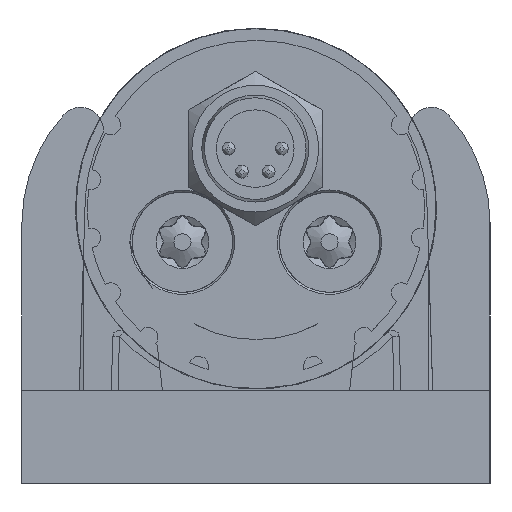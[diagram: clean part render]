
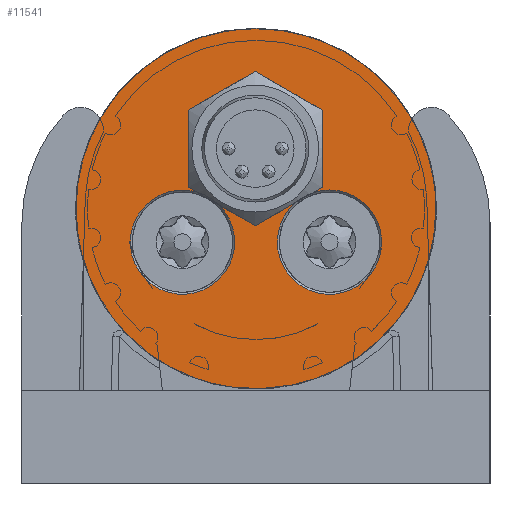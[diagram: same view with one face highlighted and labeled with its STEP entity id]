
A CAD part, front view. The second image highlights one B-rep face of the part: STEP entity #11541.
In plain terms, the highlighted planar face has unit normal (0, -1, 0).
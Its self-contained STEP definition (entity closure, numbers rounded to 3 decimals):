
#166=FACE_BOUND('',#1679,.T.);
#473=PLANE('',#12741);
#1034=FACE_OUTER_BOUND('',#1678,.T.);
#1678=EDGE_LOOP('',(#9838,#9839,#9840));
#1679=EDGE_LOOP('',(#9841,#9842,#9843,#9844,#9845,#9846,#9847,#9848,#9849,
#9850,#9851,#9852));
#2337=LINE('',#23920,#2943);
#2338=LINE('',#23922,#2944);
#2339=LINE('',#23923,#2945);
#2340=LINE('',#23925,#2946);
#2341=LINE('',#23927,#2947);
#2342=LINE('',#23929,#2948);
#2343=LINE('',#23931,#2949);
#2344=LINE('',#23932,#2950);
#2943=VECTOR('',#15618,10.);
#2944=VECTOR('',#15619,10.);
#2945=VECTOR('',#15620,10.);
#2946=VECTOR('',#15621,10.);
#2947=VECTOR('',#15622,10.);
#2948=VECTOR('',#15623,10.);
#2949=VECTOR('',#15624,10.);
#2950=VECTOR('',#15625,10.);
#3528=CIRCLE('',#12705,3.9);
#3530=CIRCLE('',#12707,3.9);
#3531=CIRCLE('',#12709,3.9);
#3533=CIRCLE('',#12711,3.9);
#3991=B_SPLINE_CURVE_WITH_KNOTS('',3,(#23542,#23543,#23544,#23545,#23546,
#23547,#23548,#23549,#23550,#23551),.UNSPECIFIED.,.F.,.F.,(4,2,2,2,4),(0.,
0.568,1.154,1.74,2.308),
 .UNSPECIFIED.);
#3992=B_SPLINE_CURVE_WITH_KNOTS('',3,(#23580,#23581,#23582,#23583,#23584,
#23585,#23586,#23587,#23588,#23589),.UNSPECIFIED.,.F.,.F.,(4,2,2,2,4),(0.,
0.568,1.154,1.74,2.308),
 .UNSPECIFIED.);
#3993=B_SPLINE_CURVE_WITH_KNOTS('',3,(#23640,#23641,#23642,#23643,#23644,
#23645,#23646,#23647,#23648,#23649,#23650,#23651,#23652,#23653,#23654,#23655,
#23656,#23657),.UNSPECIFIED.,.F.,.F.,(4,2,2,2,2,2,2,2,4),(0.,0.619,
1.376,2.208,2.895,3.582,4.413,
5.171,5.789),.UNSPECIFIED.);
#5042=VERTEX_POINT('',#23540);
#5043=VERTEX_POINT('',#23541);
#5044=VERTEX_POINT('',#23578);
#5045=VERTEX_POINT('',#23659);
#5046=VERTEX_POINT('',#23660);
#5047=VERTEX_POINT('',#23662);
#5048=VERTEX_POINT('',#23667);
#5049=VERTEX_POINT('',#23668);
#5050=VERTEX_POINT('',#23670);
#5053=VERTEX_POINT('',#23919);
#5054=VERTEX_POINT('',#23921);
#5055=VERTEX_POINT('',#23924);
#5056=VERTEX_POINT('',#23926);
#5057=VERTEX_POINT('',#23928);
#5058=VERTEX_POINT('',#23930);
#6649=EDGE_CURVE('',#5042,#5043,#3991,.T.);
#6653=EDGE_CURVE('',#5044,#5042,#3992,.T.);
#6654=EDGE_CURVE('',#5043,#5044,#3993,.T.);
#6655=EDGE_CURVE('',#5045,#5046,#3528,.T.);
#6657=EDGE_CURVE('',#5046,#5047,#3530,.T.);
#6659=EDGE_CURVE('',#5048,#5049,#3531,.T.);
#6661=EDGE_CURVE('',#5049,#5050,#3533,.T.);
#6690=EDGE_CURVE('',#5053,#5045,#2337,.T.);
#6691=EDGE_CURVE('',#5047,#5054,#2338,.T.);
#6692=EDGE_CURVE('',#5054,#5048,#2339,.T.);
#6693=EDGE_CURVE('',#5050,#5055,#2340,.T.);
#6694=EDGE_CURVE('',#5055,#5056,#2341,.T.);
#6695=EDGE_CURVE('',#5056,#5057,#2342,.T.);
#6696=EDGE_CURVE('',#5057,#5058,#2343,.T.);
#6697=EDGE_CURVE('',#5058,#5053,#2344,.T.);
#9838=ORIENTED_EDGE('',*,*,#6654,.F.);
#9839=ORIENTED_EDGE('',*,*,#6649,.F.);
#9840=ORIENTED_EDGE('',*,*,#6653,.F.);
#9841=ORIENTED_EDGE('',*,*,#6690,.T.);
#9842=ORIENTED_EDGE('',*,*,#6655,.T.);
#9843=ORIENTED_EDGE('',*,*,#6657,.T.);
#9844=ORIENTED_EDGE('',*,*,#6691,.T.);
#9845=ORIENTED_EDGE('',*,*,#6692,.T.);
#9846=ORIENTED_EDGE('',*,*,#6659,.T.);
#9847=ORIENTED_EDGE('',*,*,#6661,.T.);
#9848=ORIENTED_EDGE('',*,*,#6693,.T.);
#9849=ORIENTED_EDGE('',*,*,#6694,.T.);
#9850=ORIENTED_EDGE('',*,*,#6695,.T.);
#9851=ORIENTED_EDGE('',*,*,#6696,.T.);
#9852=ORIENTED_EDGE('',*,*,#6697,.T.);
#11541=ADVANCED_FACE('',(#1034,#166),#473,.T.);
#12705=AXIS2_PLACEMENT_3D('',#23661,#15539,#15540);
#12707=AXIS2_PLACEMENT_3D('',#23664,#15543,#15544);
#12709=AXIS2_PLACEMENT_3D('',#23669,#15548,#15549);
#12711=AXIS2_PLACEMENT_3D('',#23672,#15552,#15553);
#12741=AXIS2_PLACEMENT_3D('',#23918,#15616,#15617);
#15539=DIRECTION('center_axis',(0.,1.,0.));
#15540=DIRECTION('ref_axis',(1.,0.,0.));
#15543=DIRECTION('center_axis',(0.,1.,0.));
#15544=DIRECTION('ref_axis',(1.,0.,0.));
#15548=DIRECTION('center_axis',(0.,1.,0.));
#15549=DIRECTION('ref_axis',(1.,0.,0.));
#15552=DIRECTION('center_axis',(0.,1.,0.));
#15553=DIRECTION('ref_axis',(1.,0.,0.));
#15616=DIRECTION('center_axis',(0.,-1.,0.));
#15617=DIRECTION('ref_axis',(-1.,0.,0.));
#15618=DIRECTION('',(-0.866,0.,-0.5));
#15619=DIRECTION('',(-0.866,0.,-0.5));
#15620=DIRECTION('',(-0.866,0.,0.5));
#15621=DIRECTION('',(-0.866,0.,0.5));
#15622=DIRECTION('',(0.,0.,1.));
#15623=DIRECTION('',(0.866,0.,0.5));
#15624=DIRECTION('',(0.866,0.,-0.5));
#15625=DIRECTION('',(0.,0.,-1.));
#23540=CARTESIAN_POINT('',(-106.343,-28.458,18.021));
#23541=CARTESIAN_POINT('',(-92.887,-28.458,4.565));
#23542=CARTESIAN_POINT('Ctrl Pts',(-106.343,-28.458,
18.021));
#23543=CARTESIAN_POINT('Ctrl Pts',(-104.45,-28.458,
18.021));
#23544=CARTESIAN_POINT('Ctrl Pts',(-102.683,-28.458,
17.623));
#23545=CARTESIAN_POINT('Ctrl Pts',(-99.523,-28.458,
16.295));
#23546=CARTESIAN_POINT('Ctrl Pts',(-98.066,-28.458,
15.317));
#23547=CARTESIAN_POINT('Ctrl Pts',(-95.591,-28.458,
12.843));
#23548=CARTESIAN_POINT('Ctrl Pts',(-94.613,-28.458,
11.386));
#23549=CARTESIAN_POINT('Ctrl Pts',(-93.285,-28.458,8.225));
#23550=CARTESIAN_POINT('Ctrl Pts',(-92.887,-28.458,
6.458));
#23551=CARTESIAN_POINT('Ctrl Pts',(-92.887,-28.458,
4.565));
#23578=CARTESIAN_POINT('',(-119.799,-28.458,4.565));
#23580=CARTESIAN_POINT('Ctrl Pts',(-119.799,-28.458,
4.565));
#23581=CARTESIAN_POINT('Ctrl Pts',(-119.799,-28.458,
6.458));
#23582=CARTESIAN_POINT('Ctrl Pts',(-119.401,-28.458,
8.225));
#23583=CARTESIAN_POINT('Ctrl Pts',(-118.073,-28.458,
11.386));
#23584=CARTESIAN_POINT('Ctrl Pts',(-117.095,-28.458,
12.843));
#23585=CARTESIAN_POINT('Ctrl Pts',(-114.62,-28.458,
15.317));
#23586=CARTESIAN_POINT('Ctrl Pts',(-113.163,-28.458,
16.295));
#23587=CARTESIAN_POINT('Ctrl Pts',(-110.003,-28.458,
17.623));
#23588=CARTESIAN_POINT('Ctrl Pts',(-108.236,-28.458,
18.021));
#23589=CARTESIAN_POINT('Ctrl Pts',(-106.343,-28.458,
18.021));
#23640=CARTESIAN_POINT('Ctrl Pts',(-92.887,-28.458,
4.565));
#23641=CARTESIAN_POINT('Ctrl Pts',(-92.887,-28.458,
2.503));
#23642=CARTESIAN_POINT('Ctrl Pts',(-93.361,-28.458,
0.756));
#23643=CARTESIAN_POINT('Ctrl Pts',(-94.564,-28.458,
-2.171));
#23644=CARTESIAN_POINT('Ctrl Pts',(-95.532,-28.458,-3.634));
#23645=CARTESIAN_POINT('Ctrl Pts',(-98.101,-28.458,
-6.242));
#23646=CARTESIAN_POINT('Ctrl Pts',(-99.627,-28.458,
-7.214));
#23647=CARTESIAN_POINT('Ctrl Pts',(-102.446,-28.458,
-8.388));
#23648=CARTESIAN_POINT('Ctrl Pts',(-104.205,-28.458,
-8.891));
#23649=CARTESIAN_POINT('Ctrl Pts',(-108.481,-28.458,
-8.891));
#23650=CARTESIAN_POINT('Ctrl Pts',(-110.24,-28.458,
-8.388));
#23651=CARTESIAN_POINT('Ctrl Pts',(-113.059,-28.458,
-7.214));
#23652=CARTESIAN_POINT('Ctrl Pts',(-114.585,-28.458,
-6.242));
#23653=CARTESIAN_POINT('Ctrl Pts',(-117.154,-28.458,
-3.634));
#23654=CARTESIAN_POINT('Ctrl Pts',(-118.122,-28.458,
-2.171));
#23655=CARTESIAN_POINT('Ctrl Pts',(-119.325,-28.458,
0.756));
#23656=CARTESIAN_POINT('Ctrl Pts',(-119.799,-28.458,
2.503));
#23657=CARTESIAN_POINT('Ctrl Pts',(-119.799,-28.458,
4.565));
#23659=CARTESIAN_POINT('',(-102.15,-28.458,5.74));
#23660=CARTESIAN_POINT('',(-97.669,-28.458,-0.201));
#23661=CARTESIAN_POINT('Origin',(-100.843,-28.458,2.065));
#23662=CARTESIAN_POINT('',(-103.372,-28.458,5.034));
#23664=CARTESIAN_POINT('Origin',(-100.843,-28.458,2.065));
#23667=CARTESIAN_POINT('',(-109.125,-28.458,4.862));
#23668=CARTESIAN_POINT('',(-108.669,-28.458,-0.201));
#23669=CARTESIAN_POINT('Origin',(-111.843,-28.458,2.065));
#23670=CARTESIAN_POINT('',(-110.78,-28.458,5.818));
#23672=CARTESIAN_POINT('Origin',(-111.843,-28.458,2.065));
#23918=CARTESIAN_POINT('Origin',(-91.493,-28.458,19.415));
#23919=CARTESIAN_POINT('',(-101.398,-28.458,6.174));
#23920=CARTESIAN_POINT('',(-97.317,-28.458,8.53));
#23921=CARTESIAN_POINT('',(-106.398,-28.458,3.287));
#23922=CARTESIAN_POINT('',(-97.317,-28.458,8.53));
#23923=CARTESIAN_POINT('',(-106.8,-28.458,3.52));
#23924=CARTESIAN_POINT('',(-111.398,-28.458,6.174));
#23925=CARTESIAN_POINT('',(-106.8,-28.458,3.52));
#23926=CARTESIAN_POINT('',(-111.398,-28.458,11.948));
#23927=CARTESIAN_POINT('',(-111.398,-28.458,15.681));
#23928=CARTESIAN_POINT('',(-106.398,-28.458,14.834));
#23929=CARTESIAN_POINT('',(-99.817,-28.458,18.634));
#23930=CARTESIAN_POINT('',(-101.398,-28.458,11.948));
#23931=CARTESIAN_POINT('',(-99.3,-28.458,10.737));
#23932=CARTESIAN_POINT('',(-101.398,-28.458,12.795));
